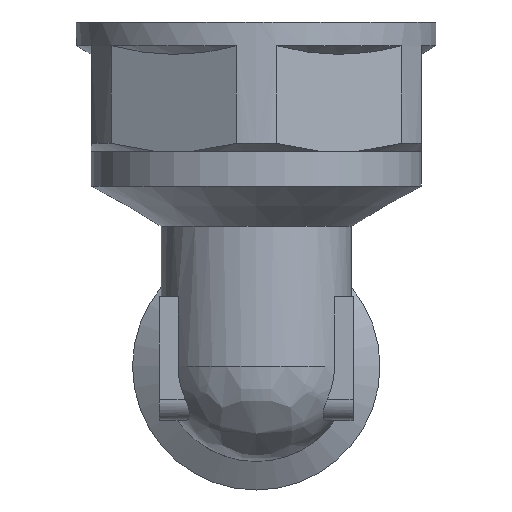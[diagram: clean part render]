
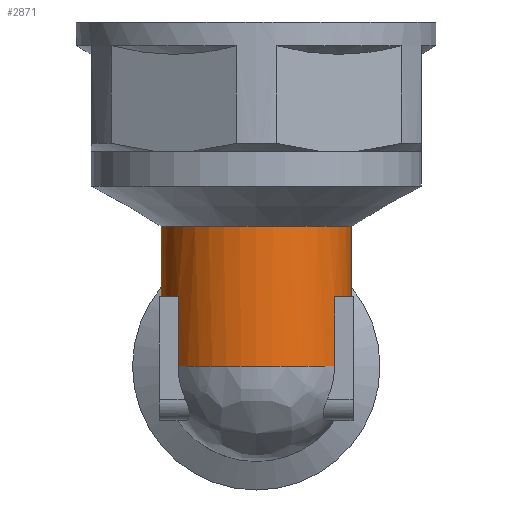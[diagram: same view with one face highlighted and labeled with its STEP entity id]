
A CAD part, front view. The second image highlights one B-rep face of the part: STEP entity #2871.
In plain terms, the highlighted cylindrical face has radius 8.85 mm (diameter 17.7 mm), a full revolution.
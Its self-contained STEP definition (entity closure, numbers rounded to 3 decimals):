
#17=ELLIPSE('',#3171,12.516,8.85);
#61=CYLINDRICAL_SURFACE('',#3172,8.85);
#326=LINE('',#4993,#516);
#327=LINE('',#4996,#517);
#336=LINE('',#5016,#526);
#341=LINE('',#5027,#531);
#346=LINE('',#5044,#536);
#516=VECTOR('',#3840,10.);
#517=VECTOR('',#3843,10.);
#526=VECTOR('',#3860,10.);
#531=VECTOR('',#3869,10.);
#536=VECTOR('',#3896,8.85);
#749=FACE_OUTER_BOUND('',#916,.T.);
#916=EDGE_LOOP('',(#2594,#2595,#2596,#2597,#2598,#2599,#2600,#2601,#2602,
#2603,#2604,#2605,#2606,#2607));
#978=CIRCLE('',#2980,8.85);
#979=CIRCLE('',#2981,8.85);
#980=CIRCLE('',#2982,8.85);
#982=CIRCLE('',#2987,8.85);
#1075=CIRCLE('',#3163,8.85);
#1076=CIRCLE('',#3164,8.85);
#1077=CIRCLE('',#3166,8.85);
#1178=VERTEX_POINT('',#4231);
#1179=VERTEX_POINT('',#4232);
#1180=VERTEX_POINT('',#4234);
#1193=VERTEX_POINT('',#4366);
#1194=VERTEX_POINT('',#4371);
#1362=VERTEX_POINT('',#4991);
#1363=VERTEX_POINT('',#4995);
#1369=VERTEX_POINT('',#5013);
#1370=VERTEX_POINT('',#5015);
#1372=VERTEX_POINT('',#5021);
#1374=VERTEX_POINT('',#5025);
#1375=VERTEX_POINT('',#5029);
#1507=EDGE_CURVE('',#1178,#1179,#978,.T.);
#1508=EDGE_CURVE('',#1180,#1178,#979,.T.);
#1510=EDGE_CURVE('',#1179,#1180,#980,.T.);
#1527=EDGE_CURVE('',#1194,#1193,#982,.T.);
#1767=EDGE_CURVE('',#1193,#1362,#326,.T.);
#1768=EDGE_CURVE('',#1363,#1194,#327,.T.);
#1778=EDGE_CURVE('',#1370,#1369,#336,.T.);
#1784=EDGE_CURVE('',#1372,#1374,#341,.T.);
#1785=EDGE_CURVE('',#1362,#1375,#1075,.T.);
#1787=EDGE_CURVE('',#1375,#1370,#1076,.T.);
#1788=EDGE_CURVE('',#1374,#1363,#1077,.T.);
#1791=EDGE_CURVE('',#1372,#1369,#17,.T.);
#1793=EDGE_CURVE('',#1179,#1375,#346,.T.);
#2594=ORIENTED_EDGE('',*,*,#1507,.T.);
#2595=ORIENTED_EDGE('',*,*,#1793,.T.);
#2596=ORIENTED_EDGE('',*,*,#1787,.T.);
#2597=ORIENTED_EDGE('',*,*,#1778,.T.);
#2598=ORIENTED_EDGE('',*,*,#1791,.F.);
#2599=ORIENTED_EDGE('',*,*,#1784,.T.);
#2600=ORIENTED_EDGE('',*,*,#1788,.T.);
#2601=ORIENTED_EDGE('',*,*,#1768,.T.);
#2602=ORIENTED_EDGE('',*,*,#1527,.T.);
#2603=ORIENTED_EDGE('',*,*,#1767,.T.);
#2604=ORIENTED_EDGE('',*,*,#1785,.T.);
#2605=ORIENTED_EDGE('',*,*,#1793,.F.);
#2606=ORIENTED_EDGE('',*,*,#1510,.T.);
#2607=ORIENTED_EDGE('',*,*,#1508,.T.);
#2871=ADVANCED_FACE('',(#749),#61,.T.);
#2980=AXIS2_PLACEMENT_3D('',#4233,#3356,#3357);
#2981=AXIS2_PLACEMENT_3D('',#4235,#3358,#3359);
#2982=AXIS2_PLACEMENT_3D('',#4237,#3361,#3362);
#2987=AXIS2_PLACEMENT_3D('',#4372,#3374,#3375);
#3163=AXIS2_PLACEMENT_3D('',#5030,#3872,#3873);
#3164=AXIS2_PLACEMENT_3D('',#5032,#3875,#3876);
#3166=AXIS2_PLACEMENT_3D('',#5034,#3879,#3880);
#3171=AXIS2_PLACEMENT_3D('',#5041,#3891,#3892);
#3172=AXIS2_PLACEMENT_3D('',#5043,#3894,#3895);
#3356=DIRECTION('center_axis',(0.,0.,-1.));
#3357=DIRECTION('ref_axis',(-1.,0.,0.));
#3358=DIRECTION('center_axis',(0.,0.,-1.));
#3359=DIRECTION('ref_axis',(-1.,0.,0.));
#3361=DIRECTION('center_axis',(0.,0.,-1.));
#3362=DIRECTION('ref_axis',(-1.,0.,0.));
#3374=DIRECTION('center_axis',(0.,0.,1.));
#3375=DIRECTION('ref_axis',(-1.,0.,0.));
#3840=DIRECTION('',(0.,0.,1.));
#3843=DIRECTION('',(0.,0.,-1.));
#3860=DIRECTION('',(0.,0.,-1.));
#3869=DIRECTION('',(0.,0.,1.));
#3872=DIRECTION('center_axis',(0.,0.,1.));
#3873=DIRECTION('ref_axis',(-1.,0.,0.));
#3875=DIRECTION('center_axis',(0.,0.,1.));
#3876=DIRECTION('ref_axis',(-1.,0.,0.));
#3879=DIRECTION('center_axis',(0.,0.,1.));
#3880=DIRECTION('ref_axis',(-1.,0.,0.));
#3891=DIRECTION('center_axis',(0.,0.707,-0.707));
#3892=DIRECTION('ref_axis',(0.,-0.707,-0.707));
#3894=DIRECTION('center_axis',(0.,0.,1.));
#3895=DIRECTION('ref_axis',(-1.,0.,0.));
#3896=DIRECTION('',(0.,0.,-1.));
#4231=CARTESIAN_POINT('',(0.,-38.15,13.));
#4232=CARTESIAN_POINT('',(8.85,-47.,13.));
#4233=CARTESIAN_POINT('Origin',(0.,-47.,13.));
#4234=CARTESIAN_POINT('',(0.,-55.85,13.));
#4235=CARTESIAN_POINT('Origin',(0.,-47.,13.));
#4237=CARTESIAN_POINT('Origin',(0.,-47.,13.));
#4366=CARTESIAN_POINT('',(7.273,-52.042,0.));
#4371=CARTESIAN_POINT('',(-7.273,-52.042,0.));
#4372=CARTESIAN_POINT('Origin',(0.,-47.,0.));
#4991=CARTESIAN_POINT('',(7.273,-52.042,6.448));
#4993=CARTESIAN_POINT('',(7.273,-52.042,0.));
#4995=CARTESIAN_POINT('',(-7.273,-52.042,6.448));
#4996=CARTESIAN_POINT('',(-7.273,-52.042,0.));
#5013=CARTESIAN_POINT('',(8.502,-44.542,2.458));
#5015=CARTESIAN_POINT('',(8.502,-44.542,6.448));
#5016=CARTESIAN_POINT('',(8.502,-44.542,0.));
#5021=CARTESIAN_POINT('',(-8.502,-44.542,2.458));
#5025=CARTESIAN_POINT('',(-8.502,-44.542,6.448));
#5027=CARTESIAN_POINT('',(-8.502,-44.542,0.));
#5029=CARTESIAN_POINT('',(8.85,-47.,6.448));
#5030=CARTESIAN_POINT('Origin',(0.,-47.,6.448));
#5032=CARTESIAN_POINT('Origin',(0.,-47.,6.448));
#5034=CARTESIAN_POINT('Origin',(0.,-47.,6.448));
#5041=CARTESIAN_POINT('Origin',(0.,-47.,0.));
#5043=CARTESIAN_POINT('Origin',(0.,-47.,0.));
#5044=CARTESIAN_POINT('',(8.85,-47.,0.));
